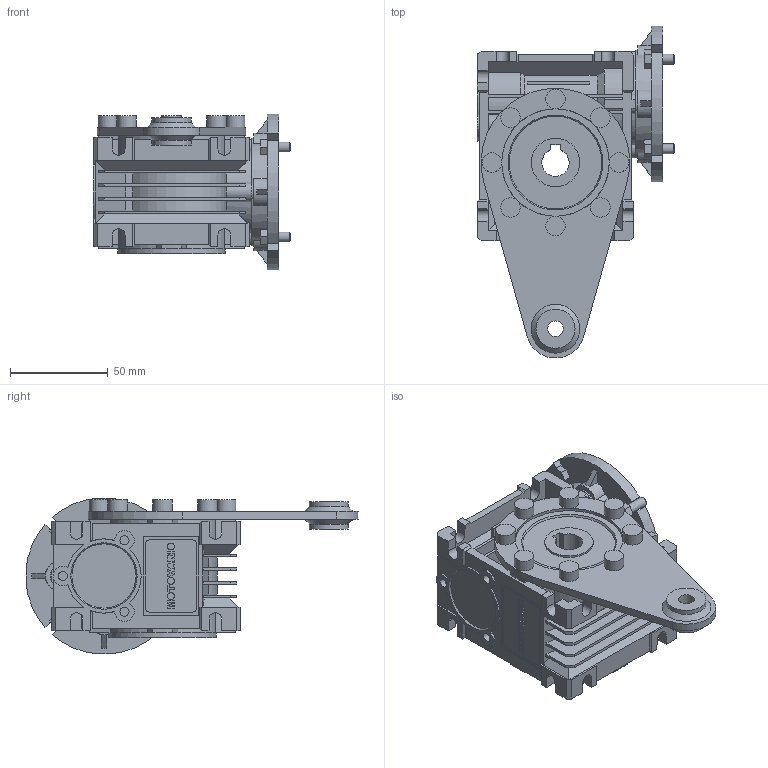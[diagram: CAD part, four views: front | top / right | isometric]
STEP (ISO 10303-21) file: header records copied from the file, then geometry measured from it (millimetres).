
FILE_DESCRIPTION(/* description */ ('STEP AP203'),/* implementation_level */ '2;1');
FILE_NAME(/* name */ 'NMRV0301311411100150NO---_---------------',/* time_stamp */ '2025-12-03T05:19:12+01:00',/* author */ ('License CC BY-ND 4.0'),/* organization */ ('CADENAS'),/* preprocessor_version */ 'ST-DEVELOPER v20',/* originating_system */ 'PARTsolutions',/* authorisation */ ' ');
FILE_SCHEMA (('CONFIG_CONTROL_DESIGN'));
Length unit declared in the file: millimetre
Products named in the file (6): NMRV0301311411100150NO---(---------------); Gear unit 30; 030-14 (63)alc-n; 30-85; VB 030-09 (9); 30-56 B14
Assembly tree (5 placements, depth 2):
  NMRV0301311411100150NO---(---------------)
    Gear unit 30
    030-14 (63)alc-n
    30-85
    VB 030-09 (9)
    30-56 B14
Bounding box: 101 x 169.82 x 79.75 mm (x, y, z)
Volume: 359447.8 mm3; surface area: 121988.4 mm2
Topology: 5 solids, 12 shells, 848 faces, 2252 edges, 1466 vertices
Faces by surface type: plane 610, cylinder 187, cone 51
Full cylindrical faces by diameter (mm): 3.545 x3, 4.65 x3, 4.917 x8, 5 x4, 8 x1, 10 x12, 19 x2, 20 x2, 24.8 x2, 30 x2, 37 x1, 38 x1, 55 x3
Entity records: 25805 total; most frequent: CARTESIAN_POINT 4702, ORIENTED_EDGE 4320, DIRECTION 4300, EDGE_CURVE 2160, LINE 1580, VECTOR 1580, VERTEX_POINT 1451, AXIS2_PLACEMENT_3D 1360
